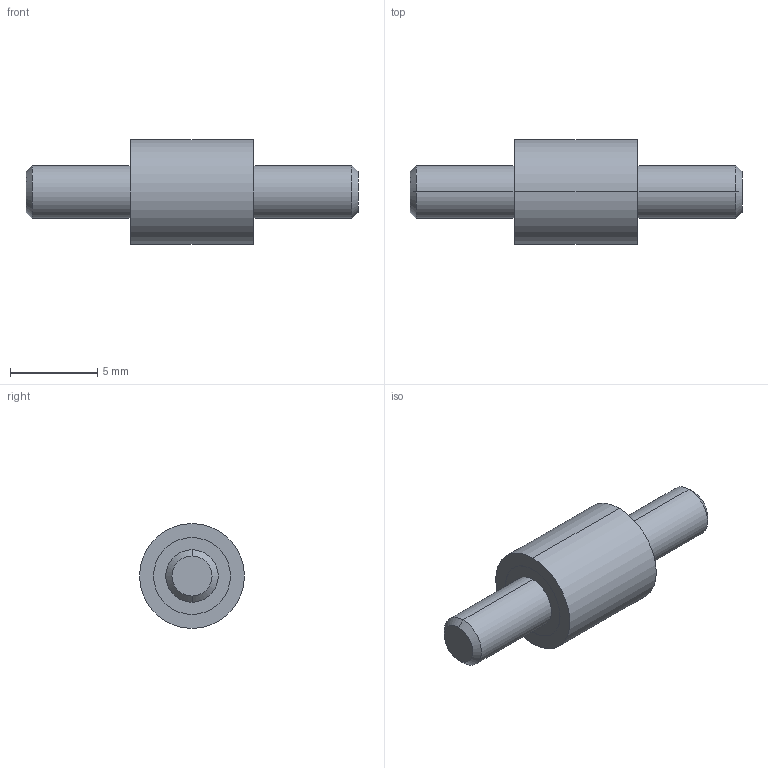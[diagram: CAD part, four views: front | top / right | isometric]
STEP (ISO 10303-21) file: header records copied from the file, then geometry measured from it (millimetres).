
FILE_DESCRIPTION (( 'STEP AP214' ), '1' );
FILE_NAME ('351-6-7-M3-SS-70.step', '2025-07-23T09:44:13', ( '' ), ( '' ), 'SwSTEP 2.0', 'SolidWorks 2022', '' );
FILE_SCHEMA (( 'AUTOMOTIVE_DESIGN' ));
Length unit declared in the file: millimetre
Products named in the file (1): 351-6-7-M3-SS-70
Bounding box: 19 x 6 x 6 mm (x, y, z)
Volume: 281.5 mm3; surface area: 297.9 mm2
Topology: 1 solids, 1 shells, 20 faces, 38 edges, 24 vertices
Faces by surface type: cylinder 10, plane 6, cone 4
Entity records: 636 total; most frequent: DIRECTION 104, CARTESIAN_POINT 83, ORIENTED_EDGE 76, AXIS2_PLACEMENT_3D 45, EDGE_CURVE 38, VERTEX_POINT 24, CIRCLE 24, EDGE_LOOP 24
